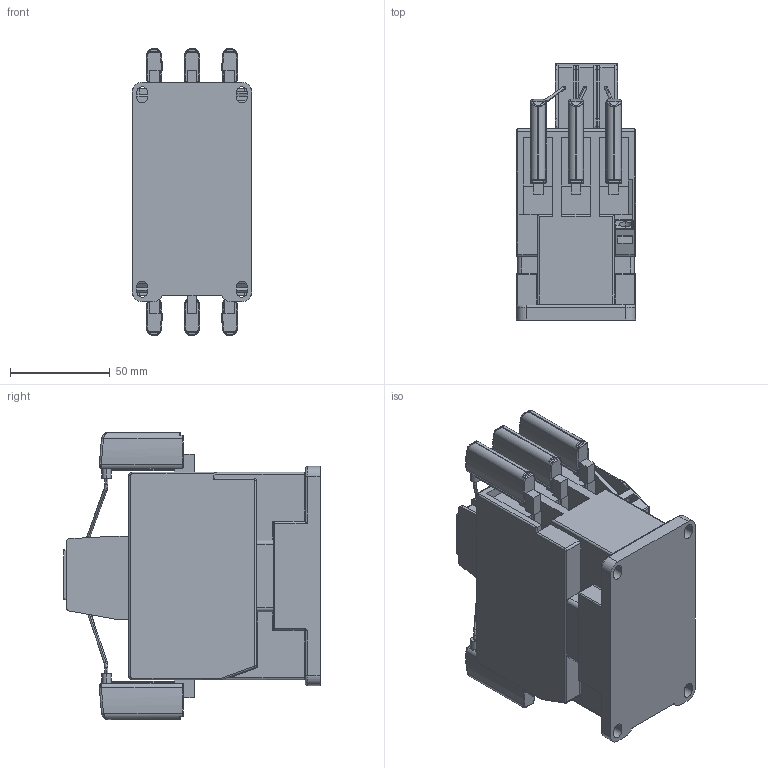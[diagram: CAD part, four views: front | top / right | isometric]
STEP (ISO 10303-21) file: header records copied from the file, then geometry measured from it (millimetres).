
FILE_DESCRIPTION (( 'STEP AP203' ), '1' );
FILE_NAME ('K3-62K00.STEP', '2013-03-11T12:37:20', ( 'edv' ), ( '' ), 'SwSTEP 2.0', 'SolidWorks 2013', '' );
FILE_SCHEMA (( 'CONFIG_CONTROL_DESIGN' ));
Length unit declared in the file: millimetre
Products named in the file (11): Teil14^K3-62K00; HA10KM-50; Teil1^K3-62K00; Vorstufenwiderstand K3-62K00; Teil2^K3-62K00; Teil12^K3-62K00; Teil3^K3-62K00; Teil15^K3-62K00; K3-62K00; Teil13^K3-62K00; Schütz K3-62K00
Assembly tree (17 placements, depth 2):
  K3-62K00
    Schütz K3-62K00
    HA10KM-50  x3
    Vorstufenwiderstand K3-62K00  x6
    Teil12^K3-62K00
    Teil13^K3-62K00
    Teil14^K3-62K00
    Teil1^K3-62K00
    Teil2^K3-62K00
    Teil3^K3-62K00
    Teil15^K3-62K00
Bounding box: 59.8 x 128.7 x 144 mm (x, y, z)
Volume: 577318.8 mm3; surface area: 95660.8 mm2
Topology: 17 solids, 17 shells, 1090 faces, 2688 edges, 1609 vertices
Faces by surface type: cylinder 454, plane 378, torus 148, bspline 59, sphere 51
Entity records: 22423 total; most frequent: CARTESIAN_POINT 4361, DIRECTION 3752, ORIENTED_EDGE 3386, EDGE_CURVE 1693, AXIS2_PLACEMENT_3D 1436, VERTEX_POINT 1025, VECTOR 880, LINE 880
